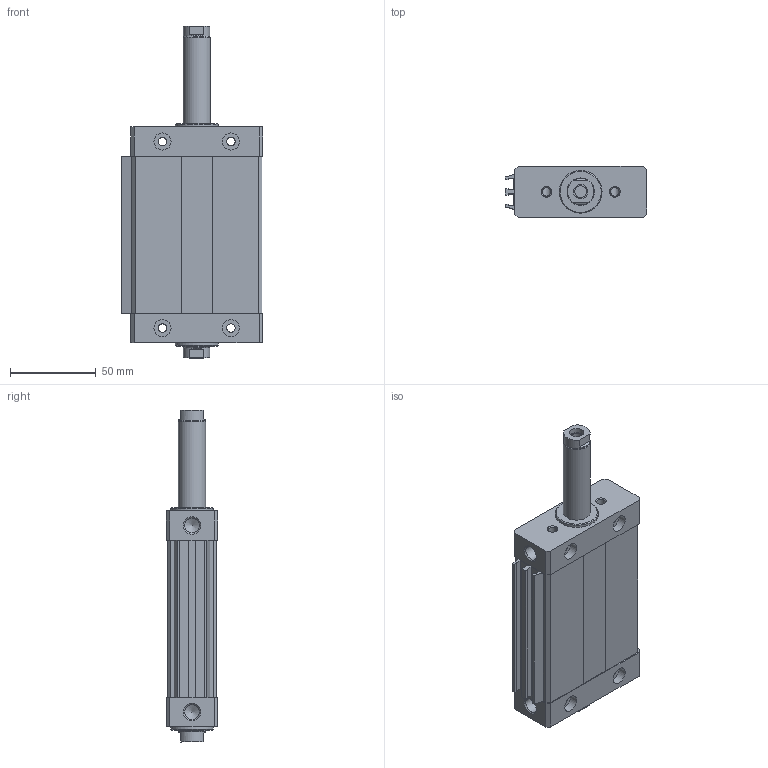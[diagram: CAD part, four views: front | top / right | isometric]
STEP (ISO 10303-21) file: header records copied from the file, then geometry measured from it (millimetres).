
FILE_DESCRIPTION((''),'2;1');
FILE_NAME('I:\Area Tecnica\Disegni\VARIE-3D\Componenti\1370 - CPO\1370_##_0000_03\1370_40_0050_03-01.iam.step','2010-12-16T10:56:24',(''),(''),'Autodesk Inventor 2011','Autodesk Inventor 2011','');
FILE_SCHEMA(('AUTOMOTIVE_DESIGN { 1 0 10303 214 1 1 1 1 }'));
Length unit declared in the file: millimetre
Products named in the file (5): 1370_40_0050_03-01; 1370_05_40_0000; 1370_06_40_0050; 1370_08_40_0000; 1370_3_40_0050
Assembly tree (4 placements, depth 2):
  1370_40_0050_03-01
    1370_05_40_0000
    1370_06_40_0050
    1370_08_40_0000
    1370_3_40_0050
Bounding box: 82.5 x 30 x 194 mm (x, y, z)
Volume: 236038.6 mm3; surface area: 79168.7 mm2
Topology: 4 solids, 4 shells, 166 faces, 398 edges, 254 vertices
Faces by surface type: plane 94, cylinder 48, cone 24
Full cylindrical faces by diameter (mm): 5 x10, 6.8 x2, 8.4 x2, 8.7 x2, 10 x8, 15.5 x2, 16 x4, 25 x2
Entity records: 4848 total; most frequent: DIRECTION 802, CARTESIAN_POINT 799, ORIENTED_EDGE 672, EDGE_CURVE 336, AXIS2_PLACEMENT_3D 299, EDGE_LOOP 254, VERTEX_POINT 244, VECTOR 204
